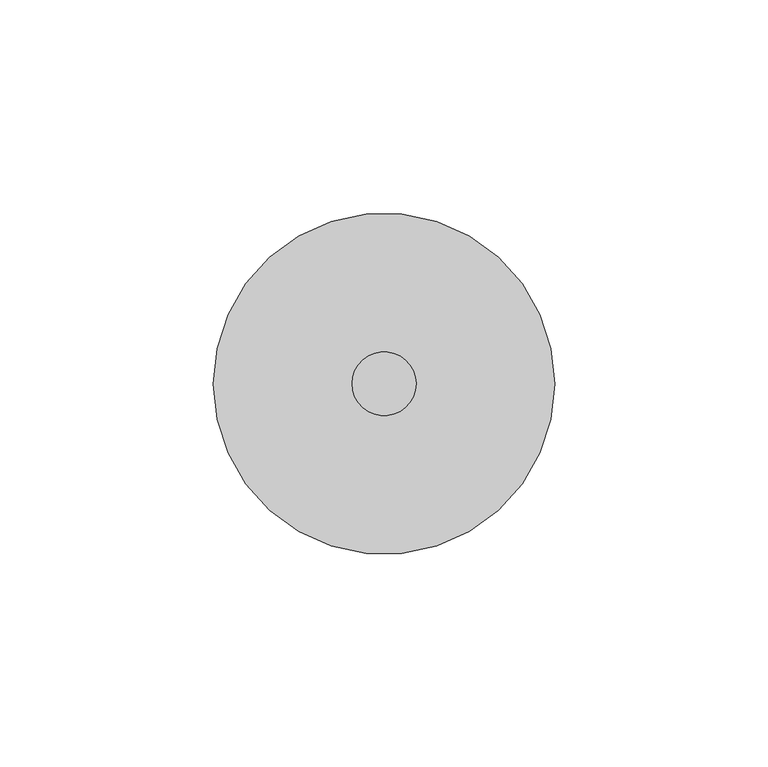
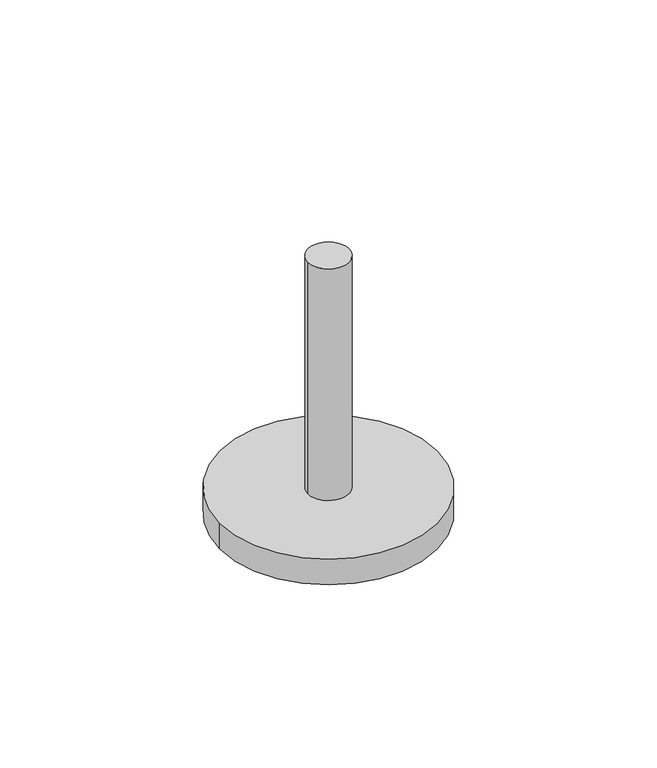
"""IFC4 building model written with IfcOpenShell, lengths in millimetres: furniture geometry, PerchaBaño : Generico_Pico."""

import ifcopenshell
import ifcopenshell.guid

model = None  # the IFC model being written
_history = None  # IfcOwnerHistory: only IFC2X3 demands one
_inside = {}  # id of a spatial element -> (the spatial element, [elements in it])
_under = {}  # id of a project, library or spatial element -> (it, [spatial elements below it])
_declared = {}  # id of a project -> (the project, [libraries it declares])
_typed = {}  # id of a type object -> (the type object, [elements of that type])
_made_of = {}  # id of a material, layer set ... -> (it, [elements and type objects made of it])


def new_model(schema):
    """Start an empty IFC model of exactly this schema.

    Asked for "IFC4X3", IfcOpenShell would pick the latest addendum, in which some entities
    have other attributes; the version numbers below select the first issue.
    IFC2X3 requires an IfcOwnerHistory on every rooted entity: one is made here for all.
    """
    global model, _history
    if schema == "IFC4X3":
        model = ifcopenshell.file(schema_version=(4, 3, 0, 0))
    else:
        model = ifcopenshell.file(schema=schema)
    _inside.clear()
    _under.clear()
    _declared.clear()
    _typed.clear()
    _made_of.clear()
    _history = None
    if model.schema == "IFC2X3":
        org = make("IfcOrganization", Name="unknown")
        user = make(
            "IfcPersonAndOrganization",
            ThePerson=make("IfcPerson", FamilyName="unknown"),
            TheOrganization=org,
        )
        app = make(
            "IfcApplication",
            ApplicationDeveloper=org,
            Version="unknown",
            ApplicationFullName="unknown",
            ApplicationIdentifier="unknown",
        )
        _history = make(
            "IfcOwnerHistory",
            OwningUser=user,
            OwningApplication=app,
            ChangeAction="ADDED",
            CreationDate=0,
        )
    return model


def make(cls, **values):
    """One entity of the class cls with the attributes given. An attribute that is None is left unset."""
    return model.create_entity(
        cls, **{name: value for name, value in values.items() if value is not None}
    )


def rooted(cls, **values):
    """An entity with a GlobalId (a new one), such as an element, a storey or a relation."""
    return make(cls, GlobalId=ifcopenshell.guid.new(), OwnerHistory=_history, **values)


def si_unit(unit_type, name, prefix=None):
    """IfcSIUnit, for example si_unit("LENGTHUNIT", "METRE", prefix="MILLI")."""
    return make("IfcSIUnit", UnitType=unit_type, Prefix=prefix, Name=name)


def assignment(units):
    """IfcUnitAssignment: the units of a project."""
    return None if units is None else make("IfcUnitAssignment", Units=units)


def point(xyz):
    """IfcCartesianPoint."""
    return None if xyz is None else make("IfcCartesianPoint", Coordinates=xyz)


def direction(xyz):
    """IfcDirection."""
    return None if xyz is None else make("IfcDirection", DirectionRatios=xyz)


def frame(location, z_axis=None, x_axis=None):
    """IfcAxis2Placement3D, a coordinate frame: its origin and axes. An axis left out is left unset."""
    return make(
        "IfcAxis2Placement3D",
        Location=point(location),
        Axis=direction(z_axis),
        RefDirection=direction(x_axis),
    )


def frame_2d(location, x_axis=None):
    """IfcAxis2Placement2D, a coordinate frame in the plane: its origin and x axis."""
    return make(
        "IfcAxis2Placement2D", Location=point(location), RefDirection=direction(x_axis)
    )


def origin():
    """The frame at (0, 0, 0) with its axes left unset."""
    return frame((0.0, 0.0, 0.0))


def origin_with_axes():
    """The frame at (0, 0, 0) with the z axis (0, 0, 1) and the x axis (1, 0, 0) written out."""
    return frame((0.0, 0.0, 0.0), z_axis=(0.0, 0.0, 1.0), x_axis=(1.0, 0.0, 0.0))


def origin_2d():
    """The frame at (0, 0) in the plane with its x axis left unset."""
    return frame_2d((0.0, 0.0))


def place(relative_to, where):
    """IfcLocalPlacement: puts the frame where relative to a parent placement (None: the world)."""
    return make(
        "IfcLocalPlacement", PlacementRelTo=relative_to, RelativePlacement=where
    )


def context(
    kind, dimensions, precision=None, world=None, true_north=None, identifier=None
):
    """IfcGeometricRepresentationContext, for example the 3D "Model" context."""
    return make(
        "IfcGeometricRepresentationContext",
        ContextIdentifier=identifier,
        ContextType=kind,
        CoordinateSpaceDimension=dimensions,
        Precision=precision,
        WorldCoordinateSystem=world,
        TrueNorth=true_north,
    )


def project(units=None, contexts=None):
    """IfcProject with its units and contexts."""
    return rooted(
        "IfcProject",
        Name="project",
        RepresentationContexts=contexts,
        UnitsInContext=assignment(units),
    )


def spatial(cls, under=None, at=None, **own):
    """A site, building, storey or space (cls), placed at a placement, below another one or the project."""
    s = rooted(cls, ObjectPlacement=at, **own)
    if under is not None:
        _under.setdefault(under.id(), (under, []))[1].append(s)
    return s


def circle_curve(where, radius):
    """IfcCircle in the frame where."""
    return make("IfcCircle", Position=where, Radius=radius)


def trimmed(basis, trim1, trim2, sense, master):
    """IfcTrimmedCurve: the piece of a basis curve between two trims."""
    return make(
        "IfcTrimmedCurve",
        BasisCurve=basis,
        Trim1=trim1,
        Trim2=trim2,
        SenseAgreement=sense,
        MasterRepresentation=master,
    )


def segment(curve, same_sense, transition):
    """IfcCompositeCurveSegment."""
    return make(
        "IfcCompositeCurveSegment",
        Transition=transition,
        SameSense=same_sense,
        ParentCurve=curve,
    )


def composite_curve(segments, self_intersect=None):
    """IfcCompositeCurve: segments joined end to end."""
    return make("IfcCompositeCurve", Segments=segments, SelfIntersect=self_intersect)


def outline(outer, holes=None, kind="AREA"):
    """IfcArbitraryClosedProfileDef: a profile drawn as a closed curve; with holes, ...WithVoids."""
    if holes is None:
        return make("IfcArbitraryClosedProfileDef", ProfileType=kind, OuterCurve=outer)
    return make(
        "IfcArbitraryProfileDefWithVoids",
        ProfileType=kind,
        OuterCurve=outer,
        InnerCurves=holes,
    )


def extrude(swept, where, along, depth):
    """IfcExtrudedAreaSolid: the profile swept, set in the frame where, extruded along a direction by depth."""
    return make(
        "IfcExtrudedAreaSolid",
        SweptArea=swept,
        Position=where,
        ExtrudedDirection=direction(along),
        Depth=depth,
    )


def shape(context_of_items, identifier, shape_type, items):
    """IfcShapeRepresentation: the items that make up one representation, for example the "Body"."""
    return make(
        "IfcShapeRepresentation",
        ContextOfItems=context_of_items,
        RepresentationIdentifier=identifier,
        RepresentationType=shape_type,
        Items=items,
    )


def source(mapping_origin, context_of_items, identifier, shape_type, items):
    """IfcRepresentationMap: a shape defined once, which mapped items show again and again."""
    return make(
        "IfcRepresentationMap",
        MappingOrigin=mapping_origin,
        MappedRepresentation=shape(context_of_items, identifier, shape_type, items),
    )


def transform(
    local_origin,
    x_axis=None,
    y_axis=None,
    z_axis=None,
    scale=None,
    scale2=None,
    scale3=None,
    uniform=True,
):
    """IfcCartesianTransformationOperator3D, or its non-uniform kind. x_axis, y_axis, z_axis: its Axis1, 2, 3."""
    if uniform:
        return make(
            "IfcCartesianTransformationOperator3D",
            Axis1=direction(x_axis),
            Axis2=direction(y_axis),
            LocalOrigin=point(local_origin),
            Scale=scale,
            Axis3=direction(z_axis),
        )
    return make(
        "IfcCartesianTransformationOperator3DnonUniform",
        Axis1=direction(x_axis),
        Axis2=direction(y_axis),
        LocalOrigin=point(local_origin),
        Scale=scale,
        Axis3=direction(z_axis),
        Scale2=scale2,
        Scale3=scale3,
    )


def mapped(mapping_source, mapping_target):
    """IfcMappedItem: shows the shape of a source again, moved by a transform."""
    return make(
        "IfcMappedItem", MappingSource=mapping_source, MappingTarget=mapping_target
    )


def made_of(thing, what):
    """Note that an element or type object is made of a material, layer set ...; save() writes the relation."""
    if what is not None:
        _made_of.setdefault(what.id(), (what, []))[1].append(thing)
    return thing


def element(
    cls,
    number,
    at=None,
    inside=None,
    cuts=None,
    type_object=None,
    material=None,
    context=None,
    identifier="Body",
    shape_type=None,
    held_by="IfcProductDefinitionShape",
    body=None,
    shapes=None,
    **own,
):
    """One element of the class cls, such as IfcWall. Its Tag is "e" and its number.

    at: its placement. inside: the storey or other place that contains it. cuts: it is an
    opening in that element (IfcRelVoidsElement). A single representation is given by context,
    identifier, shape_type and body (its items); several are given by shapes. held_by: the class
    of the entity that holds the representations. save() writes the other relations.
    """
    e = rooted(cls, Tag="e%d" % number, ObjectPlacement=at, **own)
    if body is not None:
        shapes = [shape(context, identifier, shape_type, body)]
    if shapes is not None:
        e.Representation = make(held_by, Representations=shapes)
    if inside is not None:
        _inside.setdefault(inside.id(), (inside, []))[1].append(e)
    if cuts is not None:
        rooted(
            "IfcRelVoidsElement", RelatingBuildingElement=cuts, RelatedOpeningElement=e
        )
    if type_object is not None:
        _typed.setdefault(type_object.id(), (type_object, []))[1].append(e)
    return made_of(e, material)


def aggregate(whole, parts):
    """IfcRelAggregates: a whole, such as a stair, and the parts it consists of."""
    return rooted("IfcRelAggregates", RelatingObject=whole, RelatedObjects=parts)


def save(model, path):
    """Write the relations noted so far, then the file.

    IfcRelAggregates (storeys below a building ...), IfcRelContainedInSpatialStructure (elements
    in a storey), IfcRelDefinesByType, IfcRelAssociatesMaterial and IfcRelDeclares: one each for
    every whole, place, type object, material and project.
    """
    for whole, parts in _under.values():
        aggregate(whole, parts)
    for where, things in _inside.values():
        rooted(
            "IfcRelContainedInSpatialStructure",
            RelatedElements=things,
            RelatingStructure=where,
        )
    for kind, things in _typed.values():
        rooted("IfcRelDefinesByType", RelatedObjects=things, RelatingType=kind)
    for what, things in _made_of.values():
        rooted("IfcRelAssociatesMaterial", RelatedObjects=things, RelatingMaterial=what)
    for by, libraries in _declared.values():
        rooted("IfcRelDeclares", RelatingContext=by, RelatedDefinitions=libraries)
    model.write(path)


def furniture_e4396d0a(model_context):
    return source(origin(), model_context, "Body", "SweptSolid", [
        extrude(outline(composite_curve([segment(trimmed(circle_curve(origin_2d(), 7.5), [point((-7.5, 0.0))], [point((7.5, 0.0))], False, "CARTESIAN"), True, "CONTINUOUS"), segment(trimmed(circle_curve(origin_2d(), 7.5), [point((7.5, 0.0))], [point((-7.5, 0.0))], False, "CARTESIAN"), True, "CONTINUOUS")], self_intersect=False)), frame((0.0, 0.0, 10.0), z_axis=(0.0, 0.0, 1.0), x_axis=(1.0, 0.0, 0.0)), (0.0, 0.0, 1.0), 90.0),
        extrude(outline(composite_curve([segment(trimmed(circle_curve(origin_2d(), 40.0), [point((-40.0, 0.0))], [point((40.0, 0.0))], False, "CARTESIAN"), True, "CONTINUOUS"), segment(trimmed(circle_curve(origin_2d(), 40.0), [point((40.0, 0.0))], [point((-40.0, 0.0))], False, "CARTESIAN"), True, "CONTINUOUS")], self_intersect=False)), origin_with_axes(), (0.0, 0.0, 1.0), 10.0),
    ])


if __name__ == "__main__":
    model = new_model("IFC4")
    model_context = context("Model", 3, world=origin())
    ifc_project = project(units=[si_unit("LENGTHUNIT", "METRE", prefix="MILLI")], contexts=[model_context])
    site = spatial("IfcSite", under=ifc_project)
    building = spatial("IfcBuilding", under=site)
    placement = place(None, origin())
    furniture_shape = furniture_e4396d0a(model_context)
    element("IfcFurniture", 1, ObjectType="PerchaBaño : Generico_Pico", at=placement, inside=building, context=model_context, shape_type="MappedRepresentation", body=[
        mapped(furniture_shape, transform((0.0, 0.0, 0.0), x_axis=(1.0, 0.0, 0.0), y_axis=(0.0, 1.0, 0.0), z_axis=(0.0, 0.0, 1.0))),
    ])
    save(model, "model.ifc")
